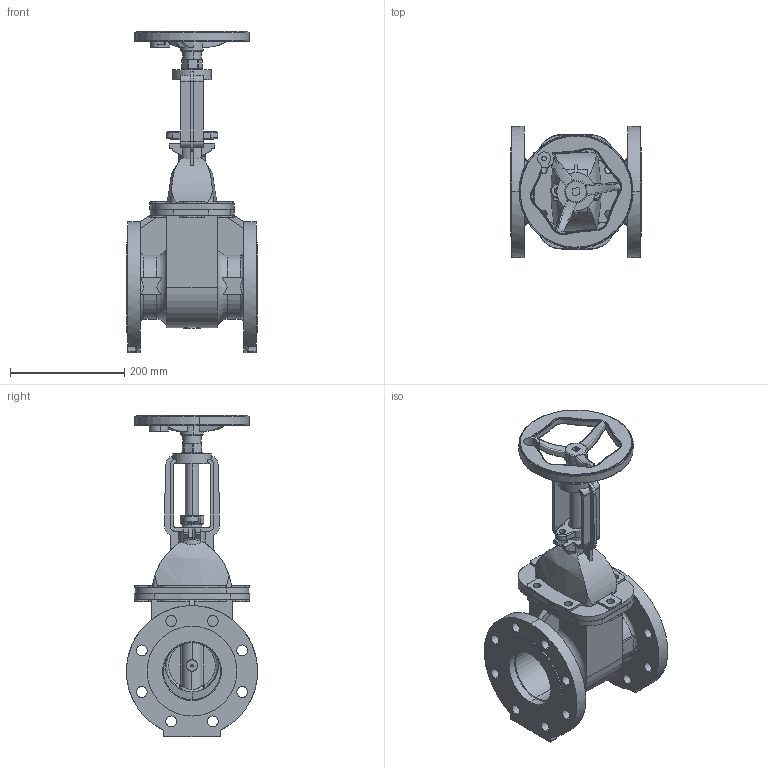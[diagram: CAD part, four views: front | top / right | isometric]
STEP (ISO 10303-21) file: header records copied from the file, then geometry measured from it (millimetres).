
FILE_DESCRIPTION(('Open CASCADE Model'),'2;1');
FILE_NAME('Open CASCADE Shape Model','2022-03-10T09:12:09',('Author'),( 'Open CASCADE'),'Open CASCADE STEP processor 7.3','Open CASCADE 7.3' ,'Unknown');
FILE_SCHEMA(('AUTOMOTIVE_DESIGN { 1 0 10303 214 1 1 1 1 }'));
Length unit declared in the file: millimetre
Products named in the file (8): Open CASCADE STEP translator 7.3 1; Open CASCADE STEP translator 7.3 1.1; Open CASCADE STEP translator 7.3 1.2; Open CASCADE STEP translator 7.3 1.3; Open CASCADE STEP translator 7.3 1.4; Open CASCADE STEP translator 7.3 1.5; Open CASCADE STEP translator 7.3 1.6; Open CASCADE STEP translator 7.3 1.7
Assembly tree (7 placements, depth 2):
  Open CASCADE STEP translator 7.3 1
    Open CASCADE STEP translator 7.3 1.1
    Open CASCADE STEP translator 7.3 1.2
    Open CASCADE STEP translator 7.3 1.3
    Open CASCADE STEP translator 7.3 1.4
    Open CASCADE STEP translator 7.3 1.5
    Open CASCADE STEP translator 7.3 1.6
    Open CASCADE STEP translator 7.3 1.7
Bounding box: 229 x 229.95 x 563.5 mm (x, y, z)
Volume: 3647001.5 mm3; surface area: 803589.4 mm2
Topology: 7 solids, 7 shells, 722 faces, 1977 edges, 1276 vertices
Faces by surface type: cylinder 297, plane 245, bspline 70, cone 47, torus 41, sphere 14, revolution 8
Entity records: 117921 total; most frequent: CARTESIAN_POINT 81097, DIRECTION 6240, ORIENTED_EDGE 3946, PCURVE 3946, DEFINITIONAL_REPRESENTATION 3946, LINE 3135, VECTOR 3135, EDGE_CURVE 1973
